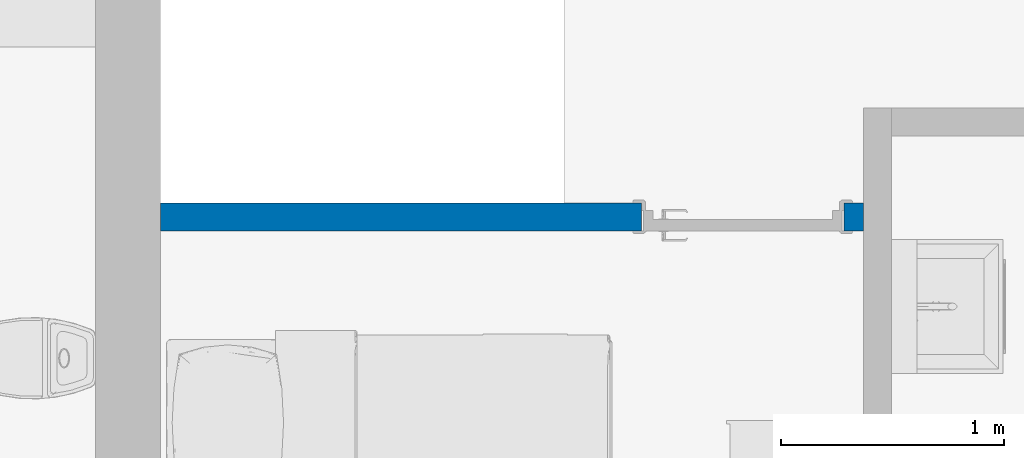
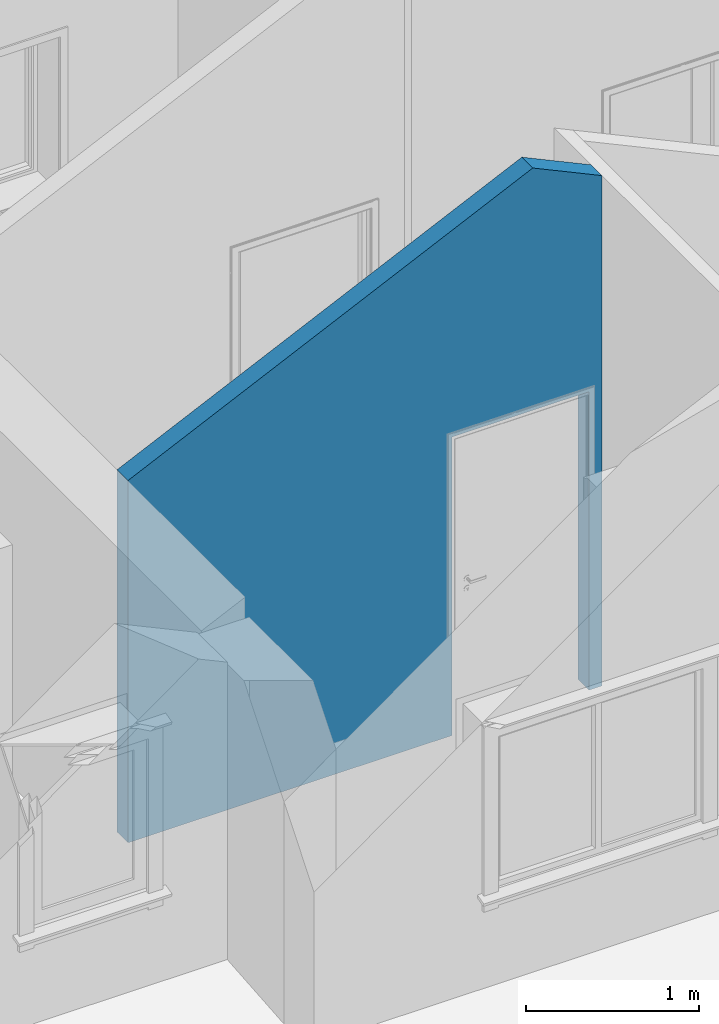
# One storey, part 7 of 44: 1 wall, 1 opening.
"""IFC2X3 building model written with IfcOpenShell, lengths in millimetres."""

from ifc_helpers import new_model, entity, si_unit, converted_unit, direction, frame, frame_2d, origin, place, context, subcontext, project, spatial, polyline, rectangle, extrude, clip, bounded_halfspace, material, layer, layer_set, layer_usage, type_object, element, save


model = new_model("IFC2X3")

# Units and contexts
model_context = context("Model", 3, precision=0.01, world=origin(), true_north=direction((0.0, 1.0)))
body_context = subcontext(model_context, "Body", "Model", "MODEL_VIEW")
ifc_project = project(units=[si_unit("LENGTHUNIT", "METRE", prefix="MILLI"), si_unit("AREAUNIT", "SQUARE_METRE"), si_unit("VOLUMEUNIT", "CUBIC_METRE"), converted_unit("PLANEANGLEUNIT", "DEGREE", entity("IfcPlaneAngleMeasure", 0.017453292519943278), si_unit("PLANEANGLEUNIT", "RADIAN"), dimensions=[0, 0, 0, 0, 0, 0, 0])], contexts=[model_context])

# Site, building, storey
site_placement = place(None, origin())
site = spatial("IfcSite", under=ifc_project, at=site_placement, Name="Default", CompositionType="ELEMENT")
building_placement = place(site_placement, origin())
building = spatial("IfcBuilding", under=site, at=building_placement, CompositionType="ELEMENT")
storey_placement = place(building_placement, frame((0.0, 0.0, 2681.0)))
storey = spatial("IfcBuildingStorey", under=building, at=storey_placement, Name="Et. 2", CompositionType="ELEMENT", Elevation=2681.0)

# Wall, opening
ifc_material_1 = material(Name="Vegg - Gips - Innvendig - Hvit")
ifc_layer_1 = layer(ifc_material_1, 13.000000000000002)
ifc_material_2 = material(Name="Vegg - Stender - Stål - Isolert")
ifc_layer_2 = layer(ifc_material_2, 100.0)
ifc_layer_3 = layer(ifc_material_1, 13.000000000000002)
ifc_layer_set = layer_set([ifc_layer_1, ifc_layer_2, ifc_layer_3], Name="Basic Wall:24-GSIG-13_100_13")
ifc_layer_usage = layer_usage(ifc_layer_set, "AXIS2", "NEGATIVE", 63.00000000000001)
wall_type = type_object("IfcWallType", Name="Basic Wall:24-GSIG-13_100_13", PredefinedType="STANDARD", material=ifc_layer_set)
wall_placement = place(storey_placement, frame((16324.009586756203, 13169.058719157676, 0.0)))
wall = element("IfcWallStandardCase", 1, at=wall_placement, inside=storey, type_object=wall_type, material=ifc_layer_usage, Name="Basic Wall:24-GSIG-13_100_13", context=body_context, shape_type="Clipping", body=[
    clip(clip(extrude(rectangle(XDim=3154.9999999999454, YDim=126.00000000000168, at=frame_2d((1577.4999999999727, 5.400124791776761e-13), x_axis=(-1.0, 0.0))), origin(), (0.0, 0.0, 1.0), 3805.218127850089), bounded_halfspace(frame((0.0, -63.0, 2548.7521429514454), z_axis=(-0.42261826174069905, 0.0, 0.9063077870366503), x_axis=(0.0, -1.0, 0.0)), False, frame((0.0, -63.0, 2548.7521429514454)), polyline([(0.0, 0.0), (2694.499999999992, 0.0), (2694.499999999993, 126.0), (0.0, 126.0), (0.0, 0.0)]))), bounded_halfspace(frame((2694.4999999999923, -63.0, 3805.2181278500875), z_axis=(0.42261826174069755, 0.0, 0.9063077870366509), x_axis=(0.0, 1.0, 0.0)), False, frame((2694.4999999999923, -63.0, 3805.2181278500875)), polyline([(0.0, 0.0), (460.4999999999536, 0.0), (460.49999999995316, 126.0), (0.0, 126.0), (0.0, 0.0)]))),
])
opening_placement = place(wall_placement, frame((3068.0, 63.0, 0.0)))
element("IfcOpeningElement", 2, at=opening_placement, cuts=wall, Name="ID Hel:9x21M:1", ObjectType="Opening", context=body_context, shape_type="SweptSolid", body=[
    extrude(rectangle(XDim=910.0000000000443, YDim=2100.0000000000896, at=frame_2d((1050.0000000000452, 455.00000000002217), x_axis=(0.0, -1.0))), frame((0.0, 0.0, 0.0), z_axis=(0.0, -1.0, 0.0), x_axis=(0.0, 0.0, 1.0)), (0.0, 0.0, 1.0), 126.00000000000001),
])

save(model, "model.ifc")
